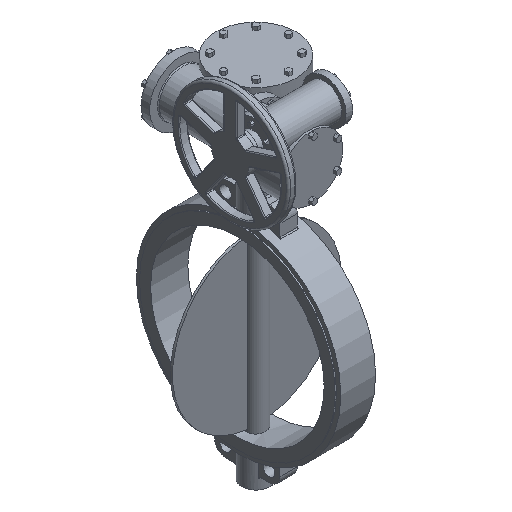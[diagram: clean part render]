
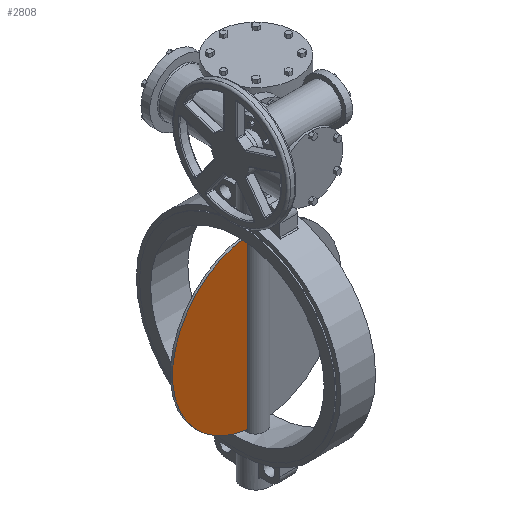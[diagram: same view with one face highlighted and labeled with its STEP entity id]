
A CAD part, isometric view. The second image highlights one B-rep face of the part: STEP entity #2808.
In plain terms, the highlighted planar face has unit normal (0, -1, 0).
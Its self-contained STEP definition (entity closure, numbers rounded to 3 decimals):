
#2808=ADVANCED_FACE('',(#7589),#7591,.T.);
#7589=FACE_BOUND('',#7590,.T.);
#7590=EDGE_LOOP('',(#11164,#11165));
#7591=PLANE('',#7592);
#7592=AXIS2_PLACEMENT_3D('',#7593,#7594,#7595);
#7593=CARTESIAN_POINT('',(0.,-2.5,0.));
#7594=DIRECTION('',(0.,-1.,0.));
#7595=DIRECTION('',(0.,0.,1.));
#11164=ORIENTED_EDGE('',*,*,#12991,.T.);
#11165=ORIENTED_EDGE('',*,*,#13035,.T.);
#12991=EDGE_CURVE('',#14779,#14776,#14780,.F.);
#13035=EDGE_CURVE('',#14776,#14779,#14863,.T.);
#14776=VERTEX_POINT('',#21058);
#14779=VERTEX_POINT('',#21088);
#14780=LINE('',#21089,#21090);
#14863=CIRCLE('',#21290,194.805);
#21058=CARTESIAN_POINT('',(-22.361,-2.5,193.517));
#21088=CARTESIAN_POINT('',(-22.361,-2.5,-193.517));
#21089=CARTESIAN_POINT('',(-22.361,-2.5,193.517));
#21090=VECTOR('',#21091,1.);
#21091=DIRECTION('',(0.,0.,-1.));
#21290=AXIS2_PLACEMENT_3D('',#21291,#21292,#21293);
#21291=CARTESIAN_POINT('',(0.,-2.5,0.));
#21292=DIRECTION('',(0.,-1.,0.));
#21293=DIRECTION('',(-0.115,0.,0.993));
